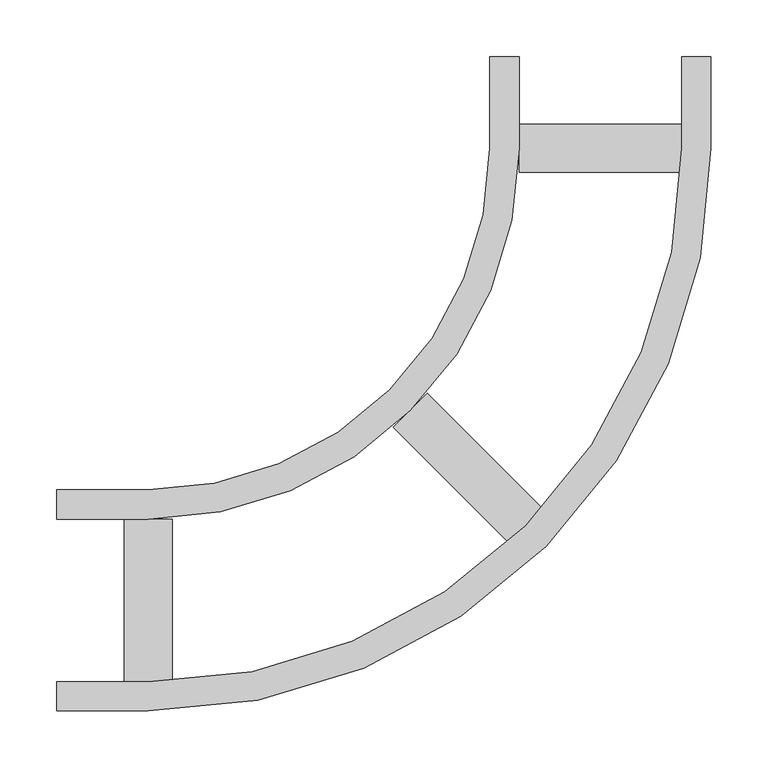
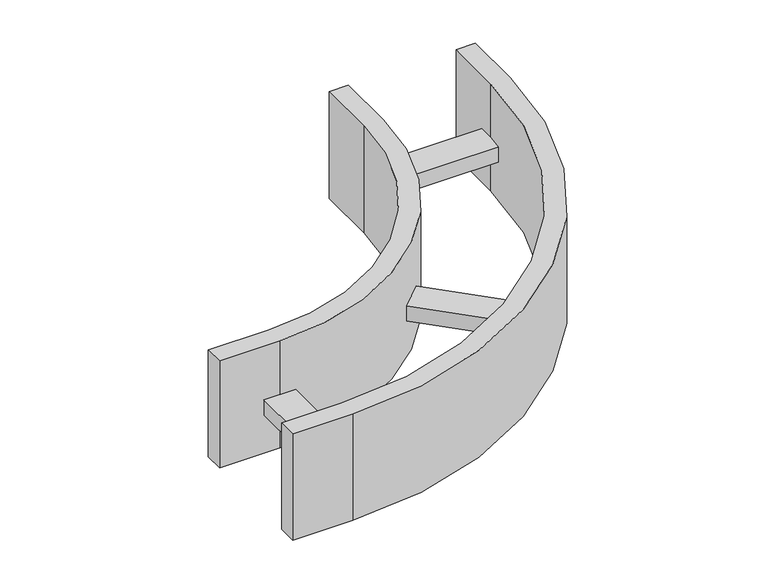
"""IFC4 building model written with IfcOpenShell, lengths in millimetres: cable carrier fitting geometry, Legrand_CableLadder_Swifts_Emerald_FlatBend-13 : Hot Dip Galvanised (after manufacture)."""

from ifc_helpers import new_model, si_unit, point, frame, frame_2d, origin, place, context, project, spatial, polyline, circle_curve, trimmed, segment, composite_curve, outline, extrude, source, transform, mapped, element, save


def cable_carrier_fitting_b2991533(model_context):
    return source(origin(), model_context, "Body", "SweptSolid", [
        extrude(outline(polyline([(-80.5697154, 50.8712306), (-181.6859851, 151.9875003), (-151.9875003, 181.6859851), (-50.8712306, 80.5697154), (-80.5697154, 50.8712306)])), frame((0.0, 0.0, -21.0), z_axis=(0.0, 0.0, 1.0), x_axis=(1.0, 0.0, 0.0)), (0.0, 0.0, 1.0), 21.0),
        extrude(outline(polyline([(-418.0, -71.5), (-418.0, 71.5), (-376.0, 71.5), (-376.0, -71.5), (-418.0, -71.5)])), frame((0.0, 0.0, -21.0), z_axis=(0.0, 0.0, 1.0), x_axis=(1.0, 0.0, 0.0)), (0.0, 0.0, 1.0), 21.0),
        extrude(outline(polyline([(71.5, 376.0), (-71.5, 376.0), (-71.5, 418.0), (71.5, 418.0), (71.5, 376.0)])), frame((0.0, 0.0, -21.0), z_axis=(0.0, 0.0, 1.0), x_axis=(1.0, 0.0, 0.0)), (0.0, 0.0, 1.0), 21.0),
        extrude(outline(composite_curve([segment(polyline([(-477.0, -97.0), (-477.0, -71.5), (-397.0, -71.5)]), True, "CONTINUOUS"), segment(trimmed(circle_curve(frame_2d((-397.0, 397.0)), 468.5), [point((-397.0, -71.5))], [point((71.5, 397.0))], True, "CARTESIAN"), True, "CONTINUOUS"), segment(polyline([(71.5, 397.0), (71.5, 477.0), (97.0, 477.0), (97.0, 397.0)]), True, "CONTINUOUS"), segment(trimmed(circle_curve(frame_2d((-397.0, 397.0)), 494.0), [point((97.0, 397.0))], [point((-397.0, -97.0))], False, "CARTESIAN"), True, "CONTINUOUS"), segment(polyline([(-397.0, -97.0), (-477.0, -97.0)]), True, "CONTINUOUS")], self_intersect=False)), frame((0.0, 0.0, -75.0), z_axis=(0.0, 0.0, 1.0), x_axis=(1.0, 0.0, 0.0)), (0.0, 0.0, 1.0), 150.0),
        extrude(outline(composite_curve([segment(polyline([(-477.0, 71.5), (-477.0, 97.0), (-397.0, 97.0)]), True, "CONTINUOUS"), segment(trimmed(circle_curve(frame_2d((-397.0, 397.0)), 300.0), [point((-397.0, 97.0))], [point((-97.0, 397.0))], True, "CARTESIAN"), True, "CONTINUOUS"), segment(polyline([(-97.0, 397.0), (-97.0, 477.0), (-71.5, 477.0), (-71.5, 397.0)]), True, "CONTINUOUS"), segment(trimmed(circle_curve(frame_2d((-397.0, 397.0)), 325.5), [point((-71.5, 397.0))], [point((-397.0, 71.5))], False, "CARTESIAN"), True, "CONTINUOUS"), segment(polyline([(-397.0, 71.5), (-477.0, 71.5)]), True, "CONTINUOUS")], self_intersect=False)), frame((0.0, 0.0, -75.0), z_axis=(0.0, 0.0, 1.0), x_axis=(1.0, 0.0, 0.0)), (0.0, 0.0, 1.0), 150.0),
    ])


if __name__ == "__main__":
    model = new_model("IFC4")
    model_context = context("Model", 3, world=origin())
    ifc_project = project(units=[si_unit("LENGTHUNIT", "METRE", prefix="MILLI")], contexts=[model_context])
    site = spatial("IfcSite", under=ifc_project)
    building = spatial("IfcBuilding", under=site)
    placement = place(None, origin())
    cable_carrier_fitting_shape = cable_carrier_fitting_b2991533(model_context)
    element("IfcCableCarrierFitting", 1, ObjectType="Legrand_CableLadder_Swifts_Emerald_FlatBend-13 : Hot Dip Galvanised (after manufacture)", at=placement, inside=building, context=model_context, shape_type="MappedRepresentation", body=[
        mapped(cable_carrier_fitting_shape, transform((0.0, 0.0, 0.0), x_axis=(1.0, 0.0, 0.0), y_axis=(0.0, 1.0, 0.0), z_axis=(0.0, 0.0, 1.0))),
    ])
    save(model, "model.ifc")
